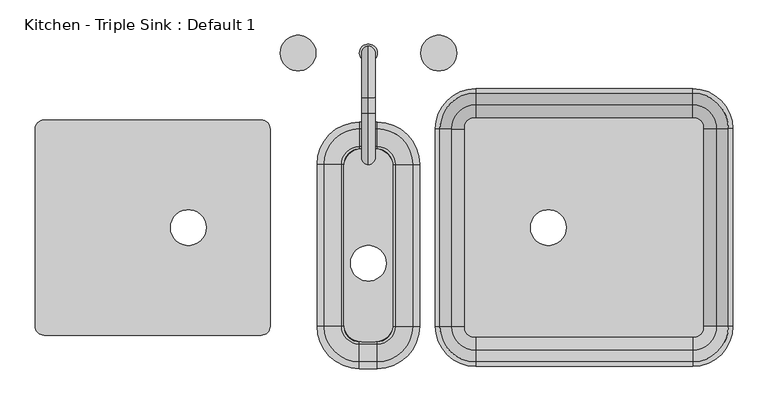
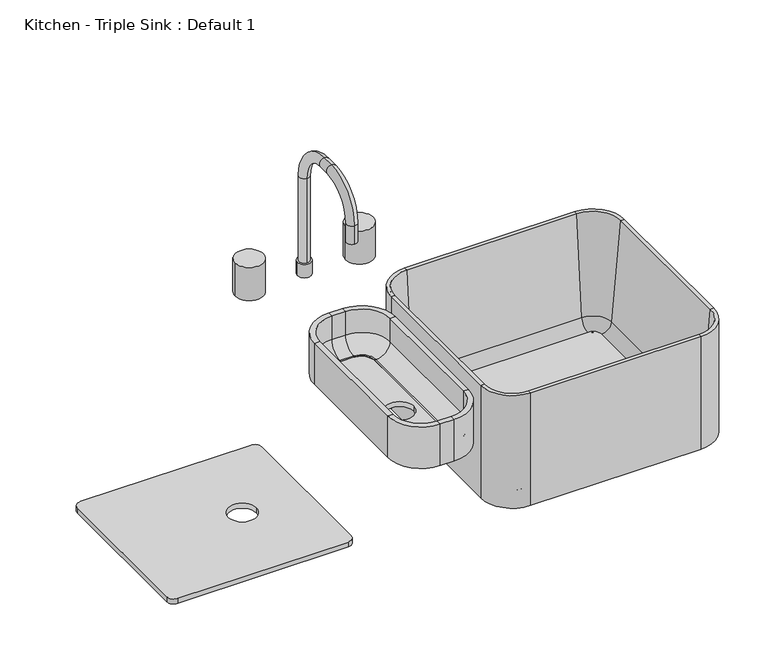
"""IFC4 building model written with IfcOpenShell, lengths in millimetres: flow terminal geometry, Kitchen - Triple Sink : Default 1."""

from ifc_helpers import new_model, si_unit, point, frame, frame_2d, origin, place, context, project, spatial, polyline, circle_curve, ellipse_curve, trimmed, segment, composite_curve, outline, extrude, source, transform, mapped, element, save
from ifc_brep_helpers import plane_surface, cylinder_surface, revolved_surface, advanced_brep


def kitchen_triple_sink_default_1_5af0c558(model_context):
    return source(origin(), model_context, "Body", "SolidModel", [
        extrude(outline(composite_curve([segment(trimmed(circle_curve(frame_2d((102.025, 48.425)), 25.4), [point((102.025, 73.825))], [point((127.425, 48.425))], False, "CARTESIAN"), True, "CONTINUOUS"), segment(polyline([(127.425, 48.425), (127.425, -175.425)]), True, "CONTINUOUS"), segment(trimmed(circle_curve(frame_2d((102.025, -175.425)), 25.4), [point((127.425, -175.425))], [point((102.025, -200.825))], False, "CARTESIAN"), True, "CONTINUOUS"), segment(polyline([(102.025, -200.825), (82.975, -200.825)]), True, "CONTINUOUS"), segment(trimmed(circle_curve(frame_2d((82.975, -175.425)), 25.4), [point((82.975, -200.825))], [point((57.575, -175.425))], False, "CARTESIAN"), True, "CONTINUOUS"), segment(polyline([(57.575, -175.425), (57.575, 48.425)]), True, "CONTINUOUS"), segment(trimmed(circle_curve(frame_2d((82.975, 48.425)), 25.4), [point((57.575, 48.425))], [point((82.975, 73.825))], False, "CARTESIAN"), True, "CONTINUOUS"), segment(polyline([(82.975, 73.825), (102.025, 73.825)]), True, "CONTINUOUS")], self_intersect=False), holes=[composite_curve([segment(trimmed(circle_curve(frame_2d((92.5, -88.9)), 25.4), [point((67.1, -88.9))], [point((117.9, -88.9))], True, "CARTESIAN"), True, "CONTINUOUS"), segment(trimmed(circle_curve(frame_2d((92.5, -88.9)), 25.4), [point((117.9, -88.9))], [point((67.1, -88.9))], True, "CARTESIAN"), True, "CONTINUOUS")], self_intersect=False)]), frame((0.0, 0.0, 835.025), z_axis=(0.0, 0.0, 1.0), x_axis=(1.0, 0.0, 0.0)), (0.0, 0.0, 1.0), 9.525),
        advanced_brep(
        [(156.0, 51.6, 914.4), (105.2, 102.4, 914.4), (105.2, 102.4, 869.95), (156.0, 51.6, 869.95), (165.525, 51.6, 914.4), (105.2, 111.925, 914.4), (165.525, 51.6, 835.025), (105.2, 111.925, 835.025), (127.425, 51.6, 835.025), (105.2, 73.825, 835.025), (127.425, 51.6, 844.55), (105.2, 73.825, 844.55), (130.6, 51.6, 844.55), (105.2, 77.0, 844.55), (156.0, -178.6, 869.95), (156.0, -178.6, 914.4), (165.525, -178.6, 914.4), (165.525, -178.6, 835.025), (127.425, -178.6, 835.025), (127.425, -178.6, 844.55), (130.6, -178.6, 844.55), (105.2, -229.4, 914.4), (105.2, -229.4, 869.95), (105.2, -238.925, 914.4), (105.2, -238.925, 835.025), (105.2, -200.825, 835.025), (105.2, -200.825, 844.55), (105.2, -204.0, 844.55), (79.8, -229.4, 869.95), (79.8, -229.4, 914.4), (79.8, -238.925, 914.4), (79.8, -238.925, 835.025), (79.8, -200.825, 835.025), (79.8, -200.825, 844.55), (79.8, -204.0, 844.55), (29.0, -178.6, 914.4), (29.0, -178.6, 869.95), (19.475, -178.6, 914.4), (19.475, -178.6, 835.025), (57.575, -178.6, 835.025), (57.575, -178.6, 844.55), (54.4, -178.6, 844.55), (29.0, 51.6, 869.95), (29.0, 51.6, 914.4), (19.475, 51.6, 914.4), (19.475, 51.6, 835.025), (57.575, 51.6, 835.025), (57.575, 51.6, 844.55), (54.4, 51.6, 844.55), (79.8, 102.4, 914.4), (79.8, 102.4, 869.95), (79.8, 111.925, 914.4), (79.8, 111.925, 835.025), (79.8, 73.825, 835.025), (79.8, 73.825, 844.55), (79.8, 77.0, 844.55)],
        [
            (0, 1, circle_curve(frame((105.2, 51.6, 914.4), z_axis=(0.0, 0.0, 1.0), x_axis=(0.0, 1.0, 0.0)), 50.8)),
            (1, 2),
            (2, 3, circle_curve(frame((105.2, 51.6, 869.95), z_axis=(0.0, 0.0, -1.0), x_axis=(0.0, 1.0, 0.0)), 50.8)),
            (3, 0),
            (4, 5, circle_curve(frame((105.2, 51.6, 914.4), z_axis=(0.0, 0.0, 1.0), x_axis=(0.0, 1.0, 0.0)), 60.325)),
            (5, 1),
            (0, 4),
            (6, 7, circle_curve(frame((105.2, 51.6, 835.025), z_axis=(0.0, 0.0, 1.0), x_axis=(0.0, 1.0, 0.0)), 60.325)),
            (7, 5),
            (4, 6),
            (8, 9, circle_curve(frame((105.2, 51.6, 835.025), z_axis=(0.0, 0.0, 1.0), x_axis=(0.0, 1.0, 0.0)), 22.225)),
            (9, 7),
            (6, 8),
            (10, 11, circle_curve(frame((105.2, 51.6, 844.55), z_axis=(0.0, 0.0, 1.0), x_axis=(0.0, 1.0, 0.0)), 22.225)),
            (11, 9),
            (8, 10),
            (12, 13, circle_curve(frame((105.2, 51.6, 844.55), z_axis=(0.0, 0.0, 1.0), x_axis=(0.0, 1.0, 0.0)), 25.4)),
            (13, 11),
            (10, 12),
            (2, 13, circle_curve(frame((105.2, 77.0, 869.95), z_axis=(-1.0, 0.0, 0.0), x_axis=(0.0, 1.0, 0.0)), 25.4)),
            (12, 3, circle_curve(frame((130.6, 51.6, 869.95), z_axis=(0.0, -1.0, 0.0), x_axis=(1.0, 0.0, 0.0)), 25.4)),
            (3, 14),
            (14, 15),
            (15, 0),
            (15, 16),
            (16, 4),
            (16, 17),
            (17, 6),
            (17, 18),
            (18, 8),
            (18, 19),
            (19, 10),
            (19, 20),
            (20, 12),
            (20, 14, circle_curve(frame((130.6, -178.6, 869.95), z_axis=(0.0, -1.0, 0.0), x_axis=(1.0, 0.0, 0.0)), 25.4)),
            (21, 15, circle_curve(frame((105.2, -178.6, 914.4), z_axis=(0.0, 0.0, 1.0), x_axis=(1.0, 0.0, 0.0)), 50.8)),
            (14, 22, circle_curve(frame((105.2, -178.6, 869.95), z_axis=(0.0, 0.0, -1.0), x_axis=(1.0, 0.0, 0.0)), 50.8)),
            (22, 21),
            (23, 16, circle_curve(frame((105.2, -178.6, 914.4), z_axis=(0.0, 0.0, 1.0), x_axis=(1.0, 0.0, 0.0)), 60.325)),
            (21, 23),
            (24, 17, circle_curve(frame((105.2, -178.6, 835.025), z_axis=(0.0, 0.0, 1.0), x_axis=(1.0, 0.0, 0.0)), 60.325)),
            (23, 24),
            (25, 18, circle_curve(frame((105.2, -178.6, 835.025), z_axis=(0.0, 0.0, 1.0), x_axis=(1.0, 0.0, 0.0)), 22.225)),
            (24, 25),
            (26, 19, circle_curve(frame((105.2, -178.6, 844.55), z_axis=(0.0, 0.0, 1.0), x_axis=(1.0, 0.0, 0.0)), 22.225)),
            (25, 26),
            (27, 20, circle_curve(frame((105.2, -178.6, 844.55), z_axis=(0.0, 0.0, 1.0), x_axis=(1.0, 0.0, 0.0)), 25.4)),
            (26, 27),
            (27, 22, circle_curve(frame((105.2, -204.0, 869.95), z_axis=(-1.0, 0.0, 0.0), x_axis=(0.0, -1.0, 0.0)), 25.4)),
            (22, 28),
            (28, 29),
            (29, 21),
            (29, 30),
            (30, 23),
            (30, 31),
            (31, 24),
            (31, 32),
            (32, 25),
            (32, 33),
            (33, 26),
            (33, 34),
            (34, 27),
            (34, 28, circle_curve(frame((79.8, -204.0, 869.95), z_axis=(-1.0, 0.0, 0.0), x_axis=(0.0, -1.0, 0.0)), 25.4)),
            (35, 29, circle_curve(frame((79.8, -178.6, 914.4), z_axis=(0.0, 0.0, 1.0), x_axis=(0.0, -1.0, 0.0)), 50.8)),
            (28, 36, circle_curve(frame((79.8, -178.6, 869.95), z_axis=(0.0, 0.0, -1.0), x_axis=(0.0, -1.0, 0.0)), 50.8)),
            (36, 35),
            (37, 30, circle_curve(frame((79.8, -178.6, 914.4), z_axis=(0.0, 0.0, 1.0), x_axis=(0.0, -1.0, 0.0)), 60.325)),
            (35, 37),
            (38, 31, circle_curve(frame((79.8, -178.6, 835.025), z_axis=(0.0, 0.0, 1.0), x_axis=(0.0, -1.0, 0.0)), 60.325)),
            (37, 38),
            (39, 32, circle_curve(frame((79.8, -178.6, 835.025), z_axis=(0.0, 0.0, 1.0), x_axis=(0.0, -1.0, 0.0)), 22.225)),
            (38, 39),
            (40, 33, circle_curve(frame((79.8, -178.6, 844.55), z_axis=(0.0, 0.0, 1.0), x_axis=(0.0, -1.0, 0.0)), 22.225)),
            (39, 40),
            (41, 34, circle_curve(frame((79.8, -178.6, 844.55), z_axis=(0.0, 0.0, 1.0), x_axis=(0.0, -1.0, 0.0)), 25.4)),
            (40, 41),
            (41, 36, circle_curve(frame((54.4, -178.6, 869.95), z_axis=(0.0, 1.0, 0.0), x_axis=(-1.0, 0.0, 0.0)), 25.4)),
            (36, 42),
            (42, 43),
            (43, 35),
            (43, 44),
            (44, 37),
            (44, 45),
            (45, 38),
            (45, 46),
            (46, 39),
            (46, 47),
            (47, 40),
            (47, 48),
            (48, 41),
            (48, 42, circle_curve(frame((54.4, 51.6, 869.95), z_axis=(0.0, 1.0, 0.0), x_axis=(-1.0, 0.0, 0.0)), 25.4)),
            (49, 43, circle_curve(frame((79.8, 51.6, 914.4), z_axis=(0.0, 0.0, 1.0), x_axis=(-1.0, 0.0, 0.0)), 50.8)),
            (42, 50, circle_curve(frame((79.8, 51.6, 869.95), z_axis=(0.0, 0.0, -1.0), x_axis=(-1.0, 0.0, 0.0)), 50.8)),
            (50, 49),
            (51, 44, circle_curve(frame((79.8, 51.6, 914.4), z_axis=(0.0, 0.0, 1.0), x_axis=(-1.0, 0.0, 0.0)), 60.325)),
            (49, 51),
            (52, 45, circle_curve(frame((79.8, 51.6, 835.025), z_axis=(0.0, 0.0, 1.0), x_axis=(-1.0, 0.0, 0.0)), 60.325)),
            (51, 52),
            (53, 46, circle_curve(frame((79.8, 51.6, 835.025), z_axis=(0.0, 0.0, 1.0), x_axis=(-1.0, 0.0, 0.0)), 22.225)),
            (52, 53),
            (54, 47, circle_curve(frame((79.8, 51.6, 844.55), z_axis=(0.0, 0.0, 1.0), x_axis=(-1.0, 0.0, 0.0)), 22.225)),
            (53, 54),
            (55, 48, circle_curve(frame((79.8, 51.6, 844.55), z_axis=(0.0, 0.0, 1.0), x_axis=(-1.0, 0.0, 0.0)), 25.4)),
            (54, 55),
            (55, 50, circle_curve(frame((79.8, 77.0, 869.95), z_axis=(1.0, 0.0, 0.0), x_axis=(0.0, 1.0, 0.0)), 25.4)),
            (50, 2),
            (1, 49),
            (5, 51),
            (7, 52),
            (9, 53),
            (11, 54),
            (13, 55),
        ],
        [
            revolved_surface(polyline([(105.2, 102.4, 869.95), (105.2, 102.4, 914.4)]), (105.2, 51.6, 14.4), (0.0, 0.0, -1.0)),
            plane_surface(frame((105.2, 51.6, 914.4), z_axis=(0.0, 0.0, 1.0), x_axis=(0.0, 1.0, 0.0))),
            cylinder_surface(frame((105.2, 51.6, 14.4), z_axis=(0.0, 0.0, -1.0), x_axis=(0.0, 1.0, 0.0)), 60.325),
            plane_surface(frame((105.2, 51.6, 835.025), z_axis=(0.0, 0.0, -1.0), x_axis=(0.0, 1.0, 0.0))),
            revolved_surface(polyline([(105.2, 73.825, 835.025), (105.2, 73.825, 844.55)]), (105.2, 51.6, 14.4), (0.0, 0.0, -1.0)),
            plane_surface(frame((105.2, 51.6, 844.55), z_axis=(0.0, 0.0, 1.0), x_axis=(0.0, 1.0, 0.0))),
            revolved_surface(trimmed(ellipse_curve(frame((105.2, 77.0, 869.95), z_axis=(1.0, 0.0, 0.0), x_axis=(0.0, 1.0, 0.0)), 25.4, 25.4), [point((105.2, 77.0, 844.55))], [point((105.2, 102.4, 869.95))], True, "CARTESIAN"), (105.2, 51.6, 14.4), (0.0, 0.0, -1.0)),
            plane_surface(frame((156.0, 51.6, 869.95), z_axis=(-1.0, 0.0, 0.0), x_axis=(0.0, -1.0, 0.0))),
            plane_surface(frame((156.0, 51.6, 914.4), z_axis=(0.0, 0.0, 1.0), x_axis=(0.0, -1.0, 0.0))),
            plane_surface(frame((165.525, 51.6, 914.4), z_axis=(1.0, 0.0, 0.0), x_axis=(0.0, -1.0, 0.0))),
            plane_surface(frame((165.525, 51.6, 835.025), z_axis=(0.0, 0.0, -1.0), x_axis=(0.0, -1.0, 0.0))),
            plane_surface(frame((127.425, 51.6, 835.025), z_axis=(-1.0, 0.0, 0.0), x_axis=(0.0, -1.0, 0.0))),
            plane_surface(frame((127.425, 51.6, 844.55), z_axis=(0.0, 0.0, 1.0), x_axis=(0.0, -1.0, 0.0))),
            revolved_surface(polyline([(156.0, -178.6, 869.95), (156.0, 51.6, 869.95)]), (130.6, 51.6, 869.95), (0.0, -1.0, 0.0)),
            revolved_surface(polyline([(156.0, -178.6, 869.95), (156.0, -178.6, 914.4)]), (105.2, -178.6, 14.4), (0.0, 0.0, -1.0)),
            plane_surface(frame((105.2, -178.6, 914.4), z_axis=(0.0, 0.0, 1.0), x_axis=(1.0, 0.0, 0.0))),
            cylinder_surface(frame((105.2, -178.6, 14.4), z_axis=(0.0, 0.0, -1.0), x_axis=(1.0, 0.0, 0.0)), 60.325),
            plane_surface(frame((105.2, -178.6, 835.025), z_axis=(0.0, 0.0, -1.0), x_axis=(1.0, 0.0, 0.0))),
            revolved_surface(polyline([(127.42500000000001, -178.6, 835.025), (127.42500000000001, -178.6, 844.55)]), (105.2, -178.6, 14.4), (0.0, 0.0, -1.0)),
            plane_surface(frame((105.2, -178.6, 844.55), z_axis=(0.0, 0.0, 1.0), x_axis=(1.0, 0.0, 0.0))),
            revolved_surface(trimmed(ellipse_curve(frame((130.6, -178.6, 869.95), z_axis=(0.0, -1.0, 0.0), x_axis=(1.0, 0.0, 0.0)), 25.4, 25.4), [point((130.6, -178.6, 844.55))], [point((156.0, -178.6, 869.95))], True, "CARTESIAN"), (105.2, -178.6, 14.4), (0.0, 0.0, -1.0)),
            plane_surface(frame((105.2, -229.4, 869.95), z_axis=(0.0, 1.0, 0.0), x_axis=(-1.0, 0.0, 0.0))),
            plane_surface(frame((105.2, -229.4, 914.4), z_axis=(0.0, 0.0, 1.0), x_axis=(-1.0, 0.0, 0.0))),
            plane_surface(frame((105.2, -238.925, 914.4), z_axis=(0.0, -1.0, 0.0), x_axis=(-1.0, 0.0, 0.0))),
            plane_surface(frame((105.2, -238.925, 835.025), z_axis=(0.0, 0.0, -1.0), x_axis=(-1.0, 0.0, 0.0))),
            plane_surface(frame((105.2, -200.825, 835.025), z_axis=(0.0, 1.0, 0.0), x_axis=(-1.0, 0.0, 0.0))),
            plane_surface(frame((105.2, -200.825, 844.55), z_axis=(0.0, 0.0, 1.0), x_axis=(-1.0, 0.0, 0.0))),
            revolved_surface(polyline([(79.8, -229.4, 869.95), (105.2, -229.4, 869.95)]), (105.2, -204.0, 869.95), (-1.0, 0.0, 0.0)),
            revolved_surface(polyline([(79.8, -229.39999999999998, 869.95), (79.8, -229.39999999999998, 914.4)]), (79.8, -178.6, 14.4), (0.0, 0.0, -1.0)),
            plane_surface(frame((79.8, -178.6, 914.4), z_axis=(0.0, 0.0, 1.0), x_axis=(0.0, -1.0, 0.0))),
            cylinder_surface(frame((79.8, -178.6, 14.4), z_axis=(0.0, 0.0, -1.0), x_axis=(0.0, -1.0, 0.0)), 60.325),
            plane_surface(frame((79.8, -178.6, 835.025), z_axis=(0.0, 0.0, -1.0), x_axis=(0.0, -1.0, 0.0))),
            revolved_surface(polyline([(79.8, -200.825, 835.025), (79.8, -200.825, 844.55)]), (79.8, -178.6, 14.4), (0.0, 0.0, -1.0)),
            plane_surface(frame((79.8, -178.6, 844.55), z_axis=(0.0, 0.0, 1.0), x_axis=(0.0, -1.0, 0.0))),
            revolved_surface(trimmed(ellipse_curve(frame((79.8, -204.0, 869.95), z_axis=(-1.0, 0.0, 0.0), x_axis=(0.0, -1.0, 0.0)), 25.4, 25.4), [point((79.8, -204.0, 844.55))], [point((79.8, -229.4, 869.95))], True, "CARTESIAN"), (79.8, -178.6, 14.4), (0.0, 0.0, -1.0)),
            plane_surface(frame((29.0, -178.6, 869.95), z_axis=(1.0, 0.0, 0.0), x_axis=(0.0, 1.0, 0.0))),
            plane_surface(frame((29.0, -178.6, 914.4), z_axis=(0.0, 0.0, 1.0), x_axis=(0.0, 1.0, 0.0))),
            plane_surface(frame((19.475, -178.6, 914.4), z_axis=(-1.0, 0.0, 0.0), x_axis=(0.0, 1.0, 0.0))),
            plane_surface(frame((19.475, -178.6, 835.025), z_axis=(0.0, 0.0, -1.0), x_axis=(0.0, 1.0, 0.0))),
            plane_surface(frame((57.575, -178.6, 835.025), z_axis=(1.0, 0.0, 0.0), x_axis=(0.0, 1.0, 0.0))),
            plane_surface(frame((57.575, -178.6, 844.55), z_axis=(0.0, 0.0, 1.0), x_axis=(0.0, 1.0, 0.0))),
            revolved_surface(polyline([(29.0, 51.599999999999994, 869.95), (29.0, -178.6, 869.95)]), (54.4, -178.6, 869.95), (0.0, 1.0, 0.0)),
            revolved_surface(polyline([(29.0, 51.6, 869.95), (29.0, 51.6, 914.4)]), (79.8, 51.6, 14.4), (0.0, 0.0, -1.0)),
            plane_surface(frame((79.8, 51.6, 914.4), z_axis=(0.0, 0.0, 1.0), x_axis=(-1.0, 0.0, 0.0))),
            cylinder_surface(frame((79.8, 51.6, 14.4), z_axis=(0.0, 0.0, -1.0), x_axis=(-1.0, 0.0, 0.0)), 60.325),
            plane_surface(frame((79.8, 51.6, 835.025), z_axis=(0.0, 0.0, -1.0), x_axis=(-1.0, 0.0, 0.0))),
            revolved_surface(polyline([(57.574999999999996, 51.6, 835.025), (57.574999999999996, 51.6, 844.55)]), (79.8, 51.6, 14.4), (0.0, 0.0, -1.0)),
            plane_surface(frame((79.8, 51.6, 844.55), z_axis=(0.0, 0.0, 1.0), x_axis=(-1.0, 0.0, 0.0))),
            revolved_surface(trimmed(ellipse_curve(frame((54.4, 51.6, 869.95), z_axis=(0.0, 1.0, 0.0), x_axis=(-1.0, 0.0, 0.0)), 25.4, 25.4), [point((54.4, 51.6, 844.55))], [point((29.0, 51.6, 869.95))], True, "CARTESIAN"), (79.8, 51.6, 14.4), (0.0, 0.0, -1.0)),
            plane_surface(frame((79.8, 102.4, 869.95), z_axis=(0.0, -1.0, 0.0), x_axis=(1.0, 0.0, 0.0))),
            plane_surface(frame((79.8, 102.4, 914.4), z_axis=(0.0, 0.0, 1.0), x_axis=(1.0, 0.0, 0.0))),
            plane_surface(frame((79.8, 111.925, 914.4), z_axis=(0.0, 1.0, 0.0), x_axis=(1.0, 0.0, 0.0))),
            plane_surface(frame((79.8, 111.925, 835.025), z_axis=(0.0, 0.0, -1.0), x_axis=(1.0, 0.0, 0.0))),
            plane_surface(frame((79.8, 73.825, 835.025), z_axis=(0.0, -1.0, 0.0), x_axis=(1.0, 0.0, 0.0))),
            plane_surface(frame((79.8, 73.825, 844.55), z_axis=(0.0, 0.0, 1.0), x_axis=(1.0, 0.0, 0.0))),
            revolved_surface(polyline([(105.2, 102.4, 869.95), (79.8, 102.4, 869.95)]), (79.8, 77.0, 869.95), (1.0, 0.0, 0.0)),
        ],
        [
            (0, [[1, 2, 3, 4]]),
            (1, [[5, 6, -1, 7]]),
            (2, [[8, 9, -5, 10]]),
            (3, [[11, 12, -8, 13]]),
            (4, [[14, 15, -11, 16]]),
            (5, [[17, 18, -14, 19]]),
            (6, [[-3, 20, -17, 21]]),
            (7, [[-4, 22, 23, 24]]),
            (8, [[-7, -24, 25, 26]]),
            (9, [[-10, -26, 27, 28]]),
            (10, [[-13, -28, 29, 30]]),
            (11, [[-16, -30, 31, 32]]),
            (12, [[-19, -32, 33, 34]]),
            (13, [[-21, -34, 35, -22]]),
            (14, [[36, -23, 37, 38]]),
            (15, [[39, -25, -36, 40]]),
            (16, [[41, -27, -39, 42]]),
            (17, [[43, -29, -41, 44]]),
            (18, [[45, -31, -43, 46]]),
            (19, [[47, -33, -45, 48]]),
            (20, [[-37, -35, -47, 49]]),
            (21, [[-38, 50, 51, 52]]),
            (22, [[-40, -52, 53, 54]]),
            (23, [[-42, -54, 55, 56]]),
            (24, [[-44, -56, 57, 58]]),
            (25, [[-46, -58, 59, 60]]),
            (26, [[-48, -60, 61, 62]]),
            (27, [[-49, -62, 63, -50]]),
            (28, [[64, -51, 65, 66]]),
            (29, [[67, -53, -64, 68]]),
            (30, [[69, -55, -67, 70]]),
            (31, [[71, -57, -69, 72]]),
            (32, [[73, -59, -71, 74]]),
            (33, [[75, -61, -73, 76]]),
            (34, [[-65, -63, -75, 77]]),
            (35, [[-66, 78, 79, 80]]),
            (36, [[-68, -80, 81, 82]]),
            (37, [[-70, -82, 83, 84]]),
            (38, [[-72, -84, 85, 86]]),
            (39, [[-74, -86, 87, 88]]),
            (40, [[-76, -88, 89, 90]]),
            (41, [[-77, -90, 91, -78]]),
            (42, [[92, -79, 93, 94]]),
            (43, [[95, -81, -92, 96]]),
            (44, [[97, -83, -95, 98]]),
            (45, [[99, -85, -97, 100]]),
            (46, [[101, -87, -99, 102]]),
            (47, [[103, -89, -101, 104]]),
            (48, [[-93, -91, -103, 105]]),
            (49, [[-94, 106, -2, 107]]),
            (50, [[-96, -107, -6, 108]]),
            (51, [[-98, -108, -9, 109]]),
            (52, [[-100, -109, -12, 110]]),
            (53, [[-102, -110, -15, 111]]),
            (54, [[-104, -111, -18, 112]]),
            (55, [[-105, -112, -20, -106]]),
        ],
    ),
        extrude(outline(composite_curve([segment(polyline([(242.3115818, 117.6884182), (556.1884182, 117.6884182)]), True, "CONTINUOUS"), segment(trimmed(circle_curve(frame_2d((556.1884182, 104.9884182)), 12.7), [point((556.1884182, 117.6884182))], [point((568.8884182, 104.9884182))], False, "CARTESIAN"), True, "CONTINUOUS"), segment(polyline([(568.8884182, 104.9884182), (568.8884182, -181.1884182)]), True, "CONTINUOUS"), segment(trimmed(circle_curve(frame_2d((556.1884182, -181.1884182)), 12.7), [point((568.8884182, -181.1884182))], [point((556.1884182, -193.8884182))], False, "CARTESIAN"), True, "CONTINUOUS"), segment(polyline([(556.1884182, -193.8884182), (242.3115818, -193.8884182)]), True, "CONTINUOUS"), segment(trimmed(circle_curve(frame_2d((242.3115818, -181.1884182)), 12.7), [point((242.3115818, -193.8884182))], [point((229.6115818, -181.1884182))], False, "CARTESIAN"), True, "CONTINUOUS"), segment(polyline([(229.6115818, -181.1884182), (229.6115818, 104.9884182)]), True, "CONTINUOUS"), segment(trimmed(circle_curve(frame_2d((242.3115818, 104.9884182)), 12.7), [point((229.6115818, 104.9884182))], [point((242.3115818, 117.6884182))], False, "CARTESIAN"), True, "CONTINUOUS")], self_intersect=False), holes=[composite_curve([segment(trimmed(circle_curve(frame_2d((348.45, -38.1)), 25.4), [point((373.85, -38.1))], [point((323.05, -38.1))], True, "CARTESIAN"), True, "CONTINUOUS"), segment(trimmed(circle_curve(frame_2d((348.45, -38.1)), 25.4), [point((323.05, -38.1))], [point((373.85, -38.1))], True, "CARTESIAN"), True, "CONTINUOUS")], self_intersect=False)]), frame((0.0, 0.0, 698.5), z_axis=(0.0, 0.0, 1.0), x_axis=(1.0, 0.0, 0.0)), (0.0, 0.0, 1.0), 9.525),
        advanced_brep(
        [(194.1, 102.4, 914.4), (244.9, 153.2, 914.4), (244.9, 159.55, 914.4), (187.75, 102.4, 914.4), (210.6340728, 102.4, 725.4146831), (244.9, 136.6659272, 725.4146831), (229.6115818, 102.4, 708.025), (244.9, 117.6884182, 708.025), (232.2, 102.4, 708.025), (244.9, 115.1, 708.025), (232.2, 102.4, 698.5), (244.9, 115.1, 698.5), (187.75, 102.4, 698.5), (244.9, 159.55, 698.5), (187.75, -178.6, 914.4), (194.1, -178.6, 914.4), (210.6340728, -178.6, 725.4146831), (229.6115818, -178.6, 708.025), (232.2, -178.6, 708.025), (232.2, -178.6, 698.5), (187.75, -178.6, 698.5), (244.9, -229.4, 914.4), (244.9, -235.75, 914.4), (244.9, -212.8659272, 725.4146831), (244.9, -193.8884182, 708.025), (244.9, -191.3, 708.025), (244.9, -191.3, 698.5), (244.9, -235.75, 698.5), (553.6, -235.75, 914.4), (553.6, -229.4, 914.4), (553.6, -212.8659272, 725.4146831), (553.6, -193.8884182, 708.025), (553.6, -191.3, 708.025), (553.6, -191.3, 698.5), (553.6, -235.75, 698.5), (604.4, -178.6, 914.4), (610.75, -178.6, 914.4), (587.8659272, -178.6, 725.4146831), (568.8884182, -178.6, 708.025), (566.3, -178.6, 708.025), (566.3, -178.6, 698.5), (610.75, -178.6, 698.5), (610.75, 102.4, 914.4), (604.4, 102.4, 914.4), (587.8659272, 102.4, 725.4146831), (568.8884182, 102.4, 708.025), (566.3, 102.4, 708.025), (566.3, 102.4, 698.5), (610.75, 102.4, 698.5), (553.6, 153.2, 914.4), (553.6, 159.55, 914.4), (553.6, 136.6659272, 725.4146831), (553.6, 117.6884182, 708.025), (553.6, 115.1, 708.025), (553.6, 115.1, 698.5), (553.6, 159.55, 698.5)],
        [
            (0, 1, circle_curve(frame((244.9, 102.4, 914.4), z_axis=(0.0, 0.0, -1.0), x_axis=(0.0, 1.0, 0.0)), 50.8)),
            (1, 2),
            (2, 3, circle_curve(frame((244.9, 102.4, 914.4), z_axis=(0.0, 0.0, 1.0), x_axis=(0.0, 1.0, 0.0)), 57.15)),
            (3, 0),
            (4, 5, circle_curve(frame((244.9, 102.4, 725.4146831), z_axis=(0.0, 0.0, -1.0), x_axis=(0.0, 1.0, 0.0)), 34.2659272)),
            (5, 1),
            (0, 4),
            (6, 7, circle_curve(frame((244.9, 102.4, 708.025), z_axis=(0.0, 0.0, -1.0), x_axis=(0.0, 1.0, 0.0)), 15.2884182)),
            (7, 5, circle_curve(frame((244.9, 117.6884182, 727.075), z_axis=(1.0, 0.0, 0.0), x_axis=(0.0, -1.0, 0.0)), 19.05)),
            (4, 6, circle_curve(frame((229.6115818, 102.4, 727.075), z_axis=(0.0, -1.0, 0.0), x_axis=(1.0, 0.0, 0.0)), 19.05)),
            (8, 9, circle_curve(frame((244.9, 102.4, 708.025), z_axis=(0.0, 0.0, -1.0), x_axis=(0.0, 1.0, 0.0)), 12.7)),
            (9, 7),
            (6, 8),
            (10, 11, circle_curve(frame((244.9, 102.4, 698.5), z_axis=(0.0, 0.0, -1.0), x_axis=(0.0, 1.0, 0.0)), 12.7)),
            (11, 9),
            (8, 10),
            (12, 13, circle_curve(frame((244.9, 102.4, 698.5), z_axis=(0.0, 0.0, -1.0), x_axis=(0.0, 1.0, 0.0)), 57.15)),
            (13, 11),
            (10, 12),
            (2, 13),
            (12, 3),
            (3, 14),
            (14, 15),
            (15, 0),
            (15, 16),
            (16, 4),
            (16, 17, circle_curve(frame((229.6115818, -178.6, 727.075), z_axis=(0.0, -1.0, 0.0), x_axis=(1.0, 0.0, 0.0)), 19.05)),
            (17, 6),
            (17, 18),
            (18, 8),
            (18, 19),
            (19, 10),
            (19, 20),
            (20, 12),
            (20, 14),
            (21, 15, circle_curve(frame((244.9, -178.6, 914.4), z_axis=(0.0, 0.0, -1.0), x_axis=(-1.0, 0.0, 0.0)), 50.8)),
            (14, 22, circle_curve(frame((244.9, -178.6, 914.4), z_axis=(0.0, 0.0, 1.0), x_axis=(-1.0, 0.0, 0.0)), 57.15)),
            (22, 21),
            (23, 16, circle_curve(frame((244.9, -178.6, 725.4146831), z_axis=(0.0, 0.0, -1.0), x_axis=(-1.0, 0.0, 0.0)), 34.2659272)),
            (21, 23),
            (24, 17, circle_curve(frame((244.9, -178.6, 708.025), z_axis=(0.0, 0.0, -1.0), x_axis=(-1.0, 0.0, 0.0)), 15.2884182)),
            (23, 24, circle_curve(frame((244.9, -193.8884182, 727.075), z_axis=(1.0, 0.0, 0.0), x_axis=(0.0, 1.0, 0.0)), 19.05)),
            (25, 18, circle_curve(frame((244.9, -178.6, 708.025), z_axis=(0.0, 0.0, -1.0), x_axis=(-1.0, 0.0, 0.0)), 12.7)),
            (24, 25),
            (26, 19, circle_curve(frame((244.9, -178.6, 698.5), z_axis=(0.0, 0.0, -1.0), x_axis=(-1.0, 0.0, 0.0)), 12.7)),
            (25, 26),
            (27, 20, circle_curve(frame((244.9, -178.6, 698.5), z_axis=(0.0, 0.0, -1.0), x_axis=(-1.0, 0.0, 0.0)), 57.15)),
            (26, 27),
            (27, 22),
            (22, 28),
            (28, 29),
            (29, 21),
            (29, 30),
            (30, 23),
            (30, 31, circle_curve(frame((553.6, -193.8884182, 727.075), z_axis=(1.0, 0.0, 0.0), x_axis=(0.0, 1.0, 0.0)), 19.05)),
            (31, 24),
            (31, 32),
            (32, 25),
            (32, 33),
            (33, 26),
            (33, 34),
            (34, 27),
            (34, 28),
            (35, 29, circle_curve(frame((553.6, -178.6, 914.4), z_axis=(0.0, 0.0, -1.0), x_axis=(0.0, -1.0, 0.0)), 50.8)),
            (28, 36, circle_curve(frame((553.6, -178.6, 914.4), z_axis=(0.0, 0.0, 1.0), x_axis=(0.0, -1.0, 0.0)), 57.15)),
            (36, 35),
            (37, 30, circle_curve(frame((553.6, -178.6, 725.4146831), z_axis=(0.0, 0.0, -1.0), x_axis=(0.0, -1.0, 0.0)), 34.2659272)),
            (35, 37),
            (38, 31, circle_curve(frame((553.6, -178.6, 708.025), z_axis=(0.0, 0.0, -1.0), x_axis=(0.0, -1.0, 0.0)), 15.2884182)),
            (37, 38, circle_curve(frame((568.8884182, -178.6, 727.075), z_axis=(0.0, 1.0, 0.0), x_axis=(-1.0, 0.0, 0.0)), 19.05)),
            (39, 32, circle_curve(frame((553.6, -178.6, 708.025), z_axis=(0.0, 0.0, -1.0), x_axis=(0.0, -1.0, 0.0)), 12.7)),
            (38, 39),
            (40, 33, circle_curve(frame((553.6, -178.6, 698.5), z_axis=(0.0, 0.0, -1.0), x_axis=(0.0, -1.0, 0.0)), 12.7)),
            (39, 40),
            (41, 34, circle_curve(frame((553.6, -178.6, 698.5), z_axis=(0.0, 0.0, -1.0), x_axis=(0.0, -1.0, 0.0)), 57.15)),
            (40, 41),
            (41, 36),
            (36, 42),
            (42, 43),
            (43, 35),
            (43, 44),
            (44, 37),
            (44, 45, circle_curve(frame((568.8884182, 102.4, 727.075), z_axis=(0.0, 1.0, 0.0), x_axis=(-1.0, 0.0, 0.0)), 19.05)),
            (45, 38),
            (45, 46),
            (46, 39),
            (46, 47),
            (47, 40),
            (47, 48),
            (48, 41),
            (48, 42),
            (49, 43, circle_curve(frame((553.6, 102.4, 914.4), z_axis=(0.0, 0.0, -1.0), x_axis=(1.0, 0.0, 0.0)), 50.8)),
            (42, 50, circle_curve(frame((553.6, 102.4, 914.4), z_axis=(0.0, 0.0, 1.0), x_axis=(1.0, 0.0, 0.0)), 57.15)),
            (50, 49),
            (51, 44, circle_curve(frame((553.6, 102.4, 725.4146831), z_axis=(0.0, 0.0, -1.0), x_axis=(1.0, 0.0, 0.0)), 34.2659272)),
            (49, 51),
            (52, 45, circle_curve(frame((553.6, 102.4, 708.025), z_axis=(0.0, 0.0, -1.0), x_axis=(1.0, 0.0, 0.0)), 15.2884182)),
            (51, 52, circle_curve(frame((553.6, 117.6884182, 727.075), z_axis=(-1.0, 0.0, 0.0), x_axis=(0.0, -1.0, 0.0)), 19.05)),
            (53, 46, circle_curve(frame((553.6, 102.4, 708.025), z_axis=(0.0, 0.0, -1.0), x_axis=(1.0, 0.0, 0.0)), 12.7)),
            (52, 53),
            (54, 47, circle_curve(frame((553.6, 102.4, 698.5), z_axis=(0.0, 0.0, -1.0), x_axis=(1.0, 0.0, 0.0)), 12.7)),
            (53, 54),
            (55, 48, circle_curve(frame((553.6, 102.4, 698.5), z_axis=(0.0, 0.0, -1.0), x_axis=(1.0, 0.0, 0.0)), 57.15)),
            (54, 55),
            (55, 50),
            (50, 2),
            (1, 49),
            (5, 51),
            (7, 52),
            (9, 53),
            (11, 54),
            (13, 55),
        ],
        [
            plane_surface(frame((244.9, 102.4, 914.4), z_axis=(0.0, 0.0, 1.0), x_axis=(0.0, 1.0, 0.0))),
            revolved_surface(polyline([(244.9, 153.2, 914.4), (244.9, 136.6659272, 725.4146831)]), (244.9, 102.4, 14.4), (0.0, 0.0, 1.0)),
            revolved_surface(trimmed(ellipse_curve(frame((244.9, 117.6884182, 727.075), z_axis=(-1.0, 0.0, 0.0), x_axis=(0.0, -1.0, 0.0)), 19.05, 19.05), [point((244.9, 136.6659272, 725.4146831))], [point((244.9, 117.6884182, 708.025))], True, "CARTESIAN"), (244.9, 102.4, 14.4), (0.0, 0.0, 1.0)),
            plane_surface(frame((244.9, 102.4, 708.025), z_axis=(0.0, 0.0, 1.0), x_axis=(0.0, 1.0, 0.0))),
            revolved_surface(polyline([(244.9, 115.10000000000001, 708.025), (244.9, 115.10000000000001, 698.5)]), (244.9, 102.4, 14.4), (0.0, 0.0, 1.0)),
            plane_surface(frame((244.9, 102.4, 698.5), z_axis=(0.0, 0.0, -1.0), x_axis=(0.0, 1.0, 0.0))),
            cylinder_surface(frame((244.9, 102.4, 14.4), z_axis=(0.0, 0.0, 1.0), x_axis=(0.0, 1.0, 0.0)), 57.15),
            plane_surface(frame((187.75, 102.4, 914.4), z_axis=(0.0, 0.0, 1.0), x_axis=(0.0, -1.0, 0.0))),
            plane_surface(frame((194.1, 102.4, 914.4), z_axis=(0.9961946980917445, 0.0, 0.08715574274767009), x_axis=(0.0, -1.0, 0.0))),
            revolved_surface(polyline([(248.66158180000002, -178.6, 727.075), (248.66158180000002, 102.4, 727.075)]), (229.6115818, 102.4, 727.075), (0.0, -1.0, 0.0)),
            plane_surface(frame((229.6115818, 102.4, 708.025), z_axis=(0.0, 0.0, 1.0), x_axis=(0.0, -1.0, 0.0))),
            plane_surface(frame((232.2, 102.4, 708.025), z_axis=(1.0, 0.0, 0.0), x_axis=(0.0, -1.0, 0.0))),
            plane_surface(frame((232.2, 102.4, 698.5), z_axis=(0.0, 0.0, -1.0), x_axis=(0.0, -1.0, 0.0))),
            plane_surface(frame((187.75, 102.4, 698.5), z_axis=(-1.0, 0.0, 0.0), x_axis=(0.0, -1.0, 0.0))),
            plane_surface(frame((244.9, -178.6, 914.4), z_axis=(0.0, 0.0, 1.0), x_axis=(-1.0, 0.0, 0.0))),
            revolved_surface(polyline([(194.1, -178.6, 914.4), (210.6340728, -178.6, 725.4146831)]), (244.9, -178.6, 14.4), (0.0, 0.0, 1.0)),
            revolved_surface(trimmed(ellipse_curve(frame((229.6115818, -178.6, 727.075), z_axis=(0.0, -1.0, 0.0), x_axis=(1.0, 0.0, 0.0)), 19.05, 19.05), [point((210.6340728, -178.6, 725.4146831))], [point((229.6115818, -178.6, 708.025))], True, "CARTESIAN"), (244.9, -178.6, 14.4), (0.0, 0.0, 1.0)),
            plane_surface(frame((244.9, -178.6, 708.025), z_axis=(0.0, 0.0, 1.0), x_axis=(-1.0, 0.0, 0.0))),
            revolved_surface(polyline([(232.20000000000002, -178.6, 708.025), (232.20000000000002, -178.6, 698.5)]), (244.9, -178.6, 14.4), (0.0, 0.0, 1.0)),
            plane_surface(frame((244.9, -178.6, 698.5), z_axis=(0.0, 0.0, -1.0), x_axis=(-1.0, 0.0, 0.0))),
            cylinder_surface(frame((244.9, -178.6, 14.4), z_axis=(0.0, 0.0, 1.0), x_axis=(-1.0, 0.0, 0.0)), 57.15),
            plane_surface(frame((244.9, -235.75, 914.4), z_axis=(0.0, 0.0, 1.0), x_axis=(1.0, 0.0, 0.0))),
            plane_surface(frame((244.9, -229.4, 914.4), z_axis=(0.0, 0.9961946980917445, 0.08715574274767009), x_axis=(1.0, 0.0, 0.0))),
            revolved_surface(polyline([(553.6, -174.83841819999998, 727.075), (244.9, -174.83841819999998, 727.075)]), (244.9, -193.8884182, 727.075), (1.0, 0.0, 0.0)),
            plane_surface(frame((244.9, -193.8884182, 708.025), z_axis=(0.0, 0.0, 1.0), x_axis=(1.0, 0.0, 0.0))),
            plane_surface(frame((244.9, -191.3, 708.025), z_axis=(0.0, 1.0, 0.0), x_axis=(1.0, 0.0, 0.0))),
            plane_surface(frame((244.9, -191.3, 698.5), z_axis=(0.0, 0.0, -1.0), x_axis=(1.0, 0.0, 0.0))),
            plane_surface(frame((244.9, -235.75, 698.5), z_axis=(0.0, -1.0, 0.0), x_axis=(1.0, 0.0, 0.0))),
            plane_surface(frame((553.6, -178.6, 914.4), z_axis=(0.0, 0.0, 1.0), x_axis=(0.0, -1.0, 0.0))),
            revolved_surface(polyline([(553.6, -229.4, 914.4), (553.6, -212.8659272, 725.4146831)]), (553.6, -178.6, 14.4), (0.0, 0.0, 1.0)),
            revolved_surface(trimmed(ellipse_curve(frame((553.6, -193.8884182, 727.075), z_axis=(1.0, 0.0, 0.0), x_axis=(0.0, 1.0, 0.0)), 19.05, 19.05), [point((553.6, -212.8659272, 725.4146831))], [point((553.6, -193.8884182, 708.025))], True, "CARTESIAN"), (553.6, -178.6, 14.4), (0.0, 0.0, 1.0)),
            plane_surface(frame((553.6, -178.6, 708.025), z_axis=(0.0, 0.0, 1.0), x_axis=(0.0, -1.0, 0.0))),
            revolved_surface(polyline([(553.6, -191.29999999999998, 708.025), (553.6, -191.29999999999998, 698.5)]), (553.6, -178.6, 14.4), (0.0, 0.0, 1.0)),
            plane_surface(frame((553.6, -178.6, 698.5), z_axis=(0.0, 0.0, -1.0), x_axis=(0.0, -1.0, 0.0))),
            cylinder_surface(frame((553.6, -178.6, 14.4), z_axis=(0.0, 0.0, 1.0), x_axis=(0.0, -1.0, 0.0)), 57.15),
            plane_surface(frame((610.75, -178.6, 914.4), z_axis=(0.0, 0.0, 1.0), x_axis=(0.0, 1.0, 0.0))),
            plane_surface(frame((604.4, -178.6, 914.4), z_axis=(-0.9961946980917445, 0.0, 0.08715574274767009), x_axis=(0.0, 1.0, 0.0))),
            revolved_surface(polyline([(549.8384182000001, 102.4, 727.075), (549.8384182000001, -178.6, 727.075)]), (568.8884182, -178.6, 727.075), (0.0, 1.0, 0.0)),
            plane_surface(frame((568.8884182, -178.6, 708.025), z_axis=(0.0, 0.0, 1.0), x_axis=(0.0, 1.0, 0.0))),
            plane_surface(frame((566.3, -178.6, 708.025), z_axis=(-1.0, 0.0, 0.0), x_axis=(0.0, 1.0, 0.0))),
            plane_surface(frame((566.3, -178.6, 698.5), z_axis=(0.0, 0.0, -1.0), x_axis=(0.0, 1.0, 0.0))),
            plane_surface(frame((610.75, -178.6, 698.5), z_axis=(1.0, 0.0, 0.0), x_axis=(0.0, 1.0, 0.0))),
            plane_surface(frame((553.6, 102.4, 914.4), z_axis=(0.0, 0.0, 1.0), x_axis=(1.0, 0.0, 0.0))),
            revolved_surface(polyline([(604.4, 102.4, 914.4), (587.8659272, 102.4, 725.4146831)]), (553.6, 102.4, 14.4), (0.0, 0.0, 1.0)),
            revolved_surface(trimmed(ellipse_curve(frame((568.8884182, 102.4, 727.075), z_axis=(0.0, 1.0, 0.0), x_axis=(-1.0, 0.0, 0.0)), 19.05, 19.05), [point((587.8659272, 102.4, 725.4146831))], [point((568.8884182, 102.4, 708.025))], True, "CARTESIAN"), (553.6, 102.4, 14.4), (0.0, 0.0, 1.0)),
            plane_surface(frame((553.6, 102.4, 708.025), z_axis=(0.0, 0.0, 1.0), x_axis=(1.0, 0.0, 0.0))),
            revolved_surface(polyline([(566.3000000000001, 102.4, 708.025), (566.3000000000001, 102.4, 698.5)]), (553.6, 102.4, 14.4), (0.0, 0.0, 1.0)),
            plane_surface(frame((553.6, 102.4, 698.5), z_axis=(0.0, 0.0, -1.0), x_axis=(1.0, 0.0, 0.0))),
            cylinder_surface(frame((553.6, 102.4, 14.4), z_axis=(0.0, 0.0, 1.0), x_axis=(1.0, 0.0, 0.0)), 57.15),
            plane_surface(frame((553.6, 159.55, 914.4), z_axis=(0.0, 0.0, 1.0), x_axis=(-1.0, 0.0, 0.0))),
            plane_surface(frame((553.6, 153.2, 914.4), z_axis=(0.0, -0.9961946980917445, 0.08715574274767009), x_axis=(-1.0, 0.0, 0.0))),
            revolved_surface(polyline([(244.89999999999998, 98.6384182, 727.075), (553.6, 98.6384182, 727.075)]), (553.6, 117.6884182, 727.075), (-1.0, 0.0, 0.0)),
            plane_surface(frame((553.6, 117.6884182, 708.025), z_axis=(0.0, 0.0, 1.0), x_axis=(-1.0, 0.0, 0.0))),
            plane_surface(frame((553.6, 115.1, 708.025), z_axis=(0.0, -1.0, 0.0), x_axis=(-1.0, 0.0, 0.0))),
            plane_surface(frame((553.6, 115.1, 698.5), z_axis=(0.0, 0.0, -1.0), x_axis=(-1.0, 0.0, 0.0))),
            plane_surface(frame((553.6, 159.55, 698.5), z_axis=(0.0, 1.0, 0.0), x_axis=(-1.0, 0.0, 0.0))),
        ],
        [
            (0, [[1, 2, 3, 4]]),
            (1, [[5, 6, -1, 7]]),
            (2, [[8, 9, -5, 10]]),
            (3, [[11, 12, -8, 13]]),
            (4, [[14, 15, -11, 16]]),
            (5, [[17, 18, -14, 19]]),
            (6, [[-3, 20, -17, 21]]),
            (7, [[-4, 22, 23, 24]]),
            (8, [[-7, -24, 25, 26]]),
            (9, [[-10, -26, 27, 28]]),
            (10, [[-13, -28, 29, 30]]),
            (11, [[-16, -30, 31, 32]]),
            (12, [[-19, -32, 33, 34]]),
            (13, [[-21, -34, 35, -22]]),
            (14, [[36, -23, 37, 38]]),
            (15, [[39, -25, -36, 40]]),
            (16, [[41, -27, -39, 42]]),
            (17, [[43, -29, -41, 44]]),
            (18, [[45, -31, -43, 46]]),
            (19, [[47, -33, -45, 48]]),
            (20, [[-37, -35, -47, 49]]),
            (21, [[-38, 50, 51, 52]]),
            (22, [[-40, -52, 53, 54]]),
            (23, [[-42, -54, 55, 56]]),
            (24, [[-44, -56, 57, 58]]),
            (25, [[-46, -58, 59, 60]]),
            (26, [[-48, -60, 61, 62]]),
            (27, [[-49, -62, 63, -50]]),
            (28, [[64, -51, 65, 66]]),
            (29, [[67, -53, -64, 68]]),
            (30, [[69, -55, -67, 70]]),
            (31, [[71, -57, -69, 72]]),
            (32, [[73, -59, -71, 74]]),
            (33, [[75, -61, -73, 76]]),
            (34, [[-65, -63, -75, 77]]),
            (35, [[-66, 78, 79, 80]]),
            (36, [[-68, -80, 81, 82]]),
            (37, [[-70, -82, 83, 84]]),
            (38, [[-72, -84, 85, 86]]),
            (39, [[-74, -86, 87, 88]]),
            (40, [[-76, -88, 89, 90]]),
            (41, [[-77, -90, 91, -78]]),
            (42, [[92, -79, 93, 94]]),
            (43, [[95, -81, -92, 96]]),
            (44, [[97, -83, -95, 98]]),
            (45, [[99, -85, -97, 100]]),
            (46, [[101, -87, -99, 102]]),
            (47, [[103, -89, -101, 104]]),
            (48, [[-93, -91, -103, 105]]),
            (49, [[-94, 106, -2, 107]]),
            (50, [[-96, -107, -6, 108]]),
            (51, [[-98, -108, -9, 109]]),
            (52, [[-100, -109, -12, 110]]),
            (53, [[-102, -110, -15, 111]]),
            (54, [[-104, -111, -18, 112]]),
            (55, [[-105, -112, -20, -106]]),
        ],
    ),
        extrude(outline(composite_curve([segment(trimmed(circle_curve(frame_2d((92.5, 210.35)), 12.7), [point((79.8, 210.35))], [point((105.2, 210.35))], False, "CARTESIAN"), True, "CONTINUOUS"), segment(trimmed(circle_curve(frame_2d((92.5, 210.35)), 12.7), [point((105.2, 210.35))], [point((79.8, 210.35))], False, "CARTESIAN"), True, "CONTINUOUS")], self_intersect=False)), frame((0.0, 0.0, 927.1), z_axis=(0.0, 0.0, 1.0), x_axis=(1.0, 0.0, 0.0)), (0.0, 0.0, 1.0), 25.4),
        advanced_brep(
        [(92.5, 219.875, 927.1), (92.5, 200.825, 927.1), (92.5, 219.875, 1114.425), (92.5, 200.825, 1114.425), (92.5, 146.85, 1168.4), (92.5, 146.85, 1187.45), (92.5, 124.625, 1187.45), (92.5, 124.625, 1168.4), (92.5, 70.65, 1114.425), (92.5, 51.6, 1114.425), (92.5, 51.6, 1079.5), (92.5, 70.65, 1079.5)],
        [
            (0, 1, circle_curve(frame((92.5, 210.35, 927.1), z_axis=(0.0, 0.0, -1.0), x_axis=(0.0, -1.0, 0.0)), 9.525)),
            (1, 0, circle_curve(frame((92.5, 210.35, 927.1), z_axis=(0.0, 0.0, -1.0), x_axis=(0.0, -1.0, 0.0)), 9.525)),
            (0, 2),
            (2, 3, circle_curve(frame((92.5, 210.35, 1114.425), z_axis=(0.0, 0.0, -1.0), x_axis=(0.0, -1.0, 0.0)), 9.525)),
            (3, 1),
            (3, 2, circle_curve(frame((92.5, 210.35, 1114.425), z_axis=(0.0, 0.0, -1.0), x_axis=(0.0, -1.0, 0.0)), 9.525)),
            (4, 3, circle_curve(frame((92.5, 146.85, 1114.425), z_axis=(-1.0, 0.0, 0.0), x_axis=(0.0, 1.0, 0.0)), 53.975)),
            (2, 5, circle_curve(frame((92.5, 146.85, 1114.425), z_axis=(1.0, 0.0, 0.0), x_axis=(0.0, 1.0, 0.0)), 73.025)),
            (5, 4, circle_curve(frame((92.5, 146.85, 1177.925), z_axis=(0.0, 1.0, 0.0), x_axis=(0.0, 0.0, -1.0)), 9.525)),
            (4, 5, circle_curve(frame((92.5, 146.85, 1177.925), z_axis=(0.0, 1.0, 0.0), x_axis=(0.0, 0.0, -1.0)), 9.525)),
            (5, 6),
            (6, 7, circle_curve(frame((92.5, 124.625, 1177.925), z_axis=(0.0, 1.0, 0.0), x_axis=(0.0, 0.0, -1.0)), 9.525)),
            (7, 4),
            (7, 6, circle_curve(frame((92.5, 124.625, 1177.925), z_axis=(0.0, 1.0, 0.0), x_axis=(0.0, 0.0, -1.0)), 9.525)),
            (8, 7, circle_curve(frame((92.5, 124.625, 1114.425), z_axis=(-1.0, 0.0, 0.0), x_axis=(0.0, 0.0, 1.0)), 53.975)),
            (6, 9, circle_curve(frame((92.5, 124.625, 1114.425), z_axis=(1.0, 0.0, 0.0), x_axis=(0.0, 0.0, 1.0)), 73.025)),
            (9, 8, circle_curve(frame((92.5, 61.125, 1114.425), z_axis=(0.0, 0.0, 1.0), x_axis=(0.0, 1.0, 0.0)), 9.525)),
            (8, 9, circle_curve(frame((92.5, 61.125, 1114.425), z_axis=(0.0, 0.0, 1.0), x_axis=(0.0, 1.0, 0.0)), 9.525)),
            (10, 11, circle_curve(frame((92.5, 61.125, 1079.5), z_axis=(0.0, 0.0, -1.0), x_axis=(0.0, 1.0, 0.0)), 9.525)),
            (11, 10, circle_curve(frame((92.5, 61.125, 1079.5), z_axis=(0.0, 0.0, -1.0), x_axis=(0.0, 1.0, 0.0)), 9.525)),
            (9, 10),
            (11, 8),
        ],
        [
            plane_surface(frame((92.5, 200.825, 927.1), z_axis=(0.0, 0.0, -1.0), x_axis=(1.0, 0.0, 0.0))),
            cylinder_surface(frame((92.5, 210.35, 927.1), z_axis=(0.0, 0.0, -1.0), x_axis=(0.0, -1.0, 0.0)), 9.525),
            revolved_surface(trimmed(ellipse_curve(frame((92.5, 210.35, 1114.425), z_axis=(0.0, 0.0, -1.0), x_axis=(0.0, -1.0, 0.0)), 9.525, 9.525), [point((92.5, 219.875, 1114.425))], [point((92.5, 200.825, 1114.425))], True, "CARTESIAN"), (92.5, 146.85, 1114.425), (1.0, 0.0, 0.0)),
            revolved_surface(trimmed(ellipse_curve(frame((92.5, 210.35, 1114.425), z_axis=(0.0, 0.0, -1.0), x_axis=(0.0, -1.0, 0.0)), 9.525, 9.525), [point((92.5, 200.825, 1114.425))], [point((92.5, 219.875, 1114.425))], True, "CARTESIAN"), (92.5, 146.85, 1114.425), (1.0, 0.0, 0.0)),
            cylinder_surface(frame((92.5, 146.85, 1177.925), z_axis=(0.0, 1.0, 0.0), x_axis=(0.0, 0.0, -1.0)), 9.525),
            revolved_surface(trimmed(ellipse_curve(frame((92.5, 124.625, 1177.925), z_axis=(0.0, 1.0, 0.0), x_axis=(0.0, 0.0, -1.0)), 9.525, 9.525), [point((92.5, 124.625, 1187.45))], [point((92.5, 124.625, 1168.4))], True, "CARTESIAN"), (92.5, 124.625, 1114.425), (1.0, 0.0, 0.0)),
            revolved_surface(trimmed(ellipse_curve(frame((92.5, 124.625, 1177.925), z_axis=(0.0, 1.0, 0.0), x_axis=(0.0, 0.0, -1.0)), 9.525, 9.525), [point((92.5, 124.625, 1168.4))], [point((92.5, 124.625, 1187.45))], True, "CARTESIAN"), (92.5, 124.625, 1114.425), (1.0, 0.0, 0.0)),
            plane_surface(frame((92.5, 51.6, 1079.5), z_axis=(0.0, 0.0, -1.0), x_axis=(-1.0, 0.0, 0.0))),
            cylinder_surface(frame((92.5, 61.125, 1114.425), z_axis=(0.0, 0.0, 1.0), x_axis=(0.0, 1.0, 0.0)), 9.525),
        ],
        [
            (0, [[1, 2]]),
            (1, [[-1, 3, 4, 5]]),
            (1, [[-2, -5, 6, -3]]),
            (2, [[7, -4, 8, 9]]),
            (3, [[-8, -6, -7, 10]]),
            (4, [[-9, 11, 12, 13]]),
            (4, [[-10, -13, 14, -11]]),
            (5, [[15, -12, 16, 17]]),
            (6, [[-16, -14, -15, 18]]),
            (7, [[19, 20]]),
            (8, [[-17, 21, -20, 22]]),
            (8, [[-18, -22, -19, -21]]),
        ],
    ),
        extrude(outline(composite_curve([segment(trimmed(circle_curve(frame_2d((-7.5, 210.35)), 25.4), [point((-32.9, 210.35))], [point((17.9, 210.35))], False, "CARTESIAN"), True, "CONTINUOUS"), segment(trimmed(circle_curve(frame_2d((-7.5, 210.35)), 25.4), [point((17.9, 210.35))], [point((-32.9, 210.35))], False, "CARTESIAN"), True, "CONTINUOUS")], self_intersect=False)), frame((0.0, 0.0, 927.1), z_axis=(0.0, 0.0, 1.0), x_axis=(1.0, 0.0, 0.0)), (0.0, 0.0, 1.0), 63.5),
        extrude(outline(composite_curve([segment(trimmed(circle_curve(frame_2d((192.5, 210.35)), 25.4), [point((167.1, 210.35))], [point((217.9, 210.35))], False, "CARTESIAN"), True, "CONTINUOUS"), segment(trimmed(circle_curve(frame_2d((192.5, 210.35)), 25.4), [point((217.9, 210.35))], [point((167.1, 210.35))], False, "CARTESIAN"), True, "CONTINUOUS")], self_intersect=False)), frame((0.0, 0.0, 927.1), z_axis=(0.0, 0.0, 1.0), x_axis=(1.0, 0.0, 0.0)), (0.0, 0.0, 1.0), 63.5),
        extrude(outline(composite_curve([segment(trimmed(circle_curve(frame_2d((-59.9, 102.4)), 12.7), [point((-59.9, 115.1))], [point((-47.2, 102.4))], False, "CARTESIAN"), True, "CONTINUOUS"), segment(polyline([(-47.2, 102.4), (-47.2, -178.6)]), True, "CONTINUOUS"), segment(trimmed(circle_curve(frame_2d((-59.9, -178.6)), 12.7), [point((-47.2, -178.6))], [point((-59.9, -191.3))], False, "CARTESIAN"), True, "CONTINUOUS"), segment(polyline([(-59.9, -191.3), (-368.6, -191.3)]), True, "CONTINUOUS"), segment(trimmed(circle_curve(frame_2d((-368.6, -178.6)), 12.7), [point((-368.6, -191.3))], [point((-381.3, -178.6))], False, "CARTESIAN"), True, "CONTINUOUS"), segment(polyline([(-381.3, -178.6), (-381.3, 102.4)]), True, "CONTINUOUS"), segment(trimmed(circle_curve(frame_2d((-368.6, 102.4)), 12.7), [point((-381.3, 102.4))], [point((-368.6, 115.1))], False, "CARTESIAN"), True, "CONTINUOUS"), segment(polyline([(-368.6, 115.1), (-59.9, 115.1)]), True, "CONTINUOUS")], self_intersect=False), holes=[composite_curve([segment(trimmed(circle_curve(frame_2d((-163.45, -38.1)), 25.4), [point((-188.85, -38.1))], [point((-138.05, -38.1))], True, "CARTESIAN"), True, "CONTINUOUS"), segment(trimmed(circle_curve(frame_2d((-163.45, -38.1)), 25.4), [point((-138.05, -38.1))], [point((-188.85, -38.1))], True, "CARTESIAN"), True, "CONTINUOUS")], self_intersect=False)]), frame((0.0, 0.0, 698.5), z_axis=(0.0, 0.0, 1.0), x_axis=(1.0, 0.0, 0.0)), (0.0, 0.0, 1.0), 9.525),
    ])


if __name__ == "__main__":
    model = new_model("IFC4")
    model_context = context("Model", 3, world=origin())
    ifc_project = project(units=[si_unit("LENGTHUNIT", "METRE", prefix="MILLI")], contexts=[model_context])
    site = spatial("IfcSite", under=ifc_project)
    building = spatial("IfcBuilding", under=site)
    placement = place(None, origin())
    kitchen_triple_sink_default_1_shape = kitchen_triple_sink_default_1_5af0c558(model_context)
    element("IfcFlowTerminal", 1, ObjectType="Kitchen - Triple Sink : Default 1", at=placement, inside=building, context=model_context, shape_type="MappedRepresentation", body=[
        mapped(kitchen_triple_sink_default_1_shape, transform((0.0, 0.0, 0.0), x_axis=(1.0, 0.0, 0.0), y_axis=(0.0, 1.0, 0.0), z_axis=(0.0, 0.0, 1.0))),
    ])
    save(model, "model.ifc")
